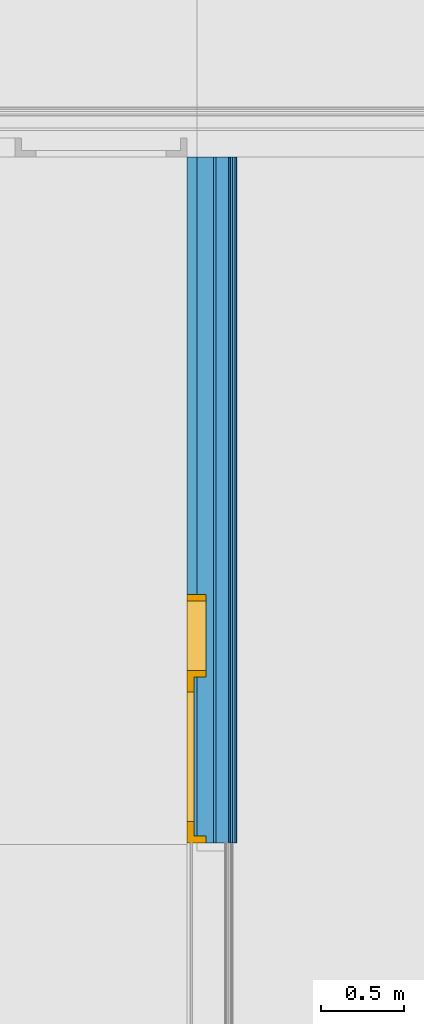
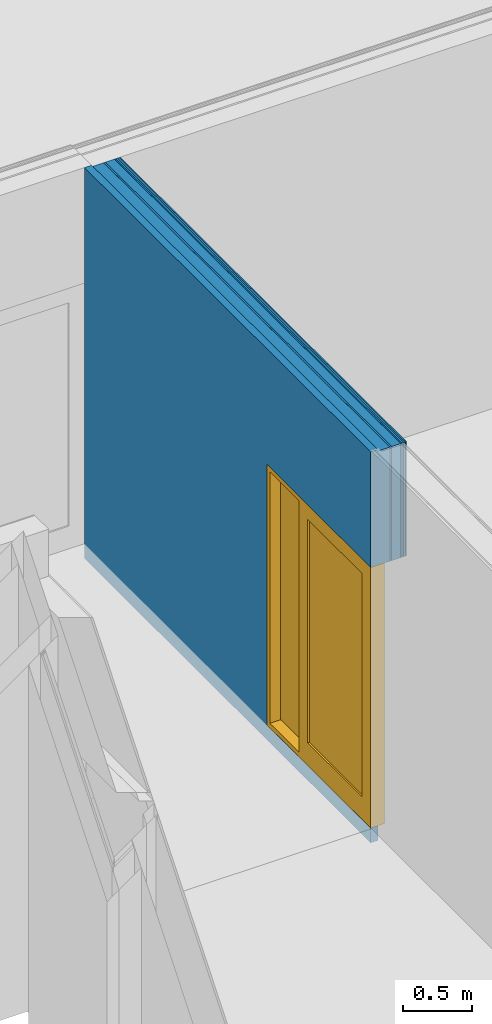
# One storey, part 66 of 139: 7 building element parts, 1 door, 1 opening, 1 element without a shape of its own.
"""IFC2X3 building model written with IfcOpenShell, lengths in millimetres."""

from ifc_helpers import new_model, entity, si_unit, converted_unit, derived_unit, money_unit, direction, frame, origin_with_axes, place, context, subcontext, project, spatial, open_shell, faceted_brep, surface_model, source, transform, mapped, material, type_object, element, fill, aggregate, save


model = new_model("IFC2X3")

# Units and contexts
model_context = context("Model", 3, precision=0.01, world=origin_with_axes(), true_north=direction((0.0, 1.0)))
body_context = subcontext(model_context, "Body", "Model", "MODEL_VIEW")
ifc_project = project(units=[si_unit("LENGTHUNIT", "METRE", prefix="MILLI"), si_unit("AREAUNIT", "SQUARE_METRE"), si_unit("VOLUMEUNIT", "CUBIC_METRE"), converted_unit("PLANEANGLEUNIT", "DEGREE", entity("IfcPlaneAngleMeasure", 0.0174532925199), si_unit("PLANEANGLEUNIT", "RADIAN"), dimensions=[0, 0, 0, 0, 0, 0, 0]), money_unit("EUR"), converted_unit("TIMEUNIT", "Year", entity("IfcTimeMeasure", 31556926.0), si_unit("TIMEUNIT", "SECOND"), dimensions=[0, 0, 1, 0, 0, 0, 0]), si_unit("MASSUNIT", "GRAM", prefix="KILO"), si_unit("THERMODYNAMICTEMPERATUREUNIT", "DEGREE_CELSIUS"), si_unit("LUMINOUSINTENSITYUNIT", "LUMEN"), si_unit("ENERGYUNIT", "JOULE", prefix="MEGA"), derived_unit("THERMALCONDUCTANCEUNIT", [(si_unit("POWERUNIT", "WATT"), 1), (si_unit("LENGTHUNIT", "METRE"), -1), (si_unit("THERMODYNAMICTEMPERATUREUNIT", "KELVIN"), -1)]), derived_unit("SPECIFICHEATCAPACITYUNIT", [(si_unit("ENERGYUNIT", "JOULE"), 1), (si_unit("MASSUNIT", "GRAM", prefix="KILO"), -1), (si_unit("THERMODYNAMICTEMPERATUREUNIT", "KELVIN"), -1)]), derived_unit("MASSDENSITYUNIT", [(si_unit("MASSUNIT", "GRAM", prefix="KILO"), 1), (si_unit("VOLUMEUNIT", "CUBIC_METRE"), -1)])], contexts=[model_context])

# Site, building, storey
site_placement = place(None, origin_with_axes())
site = spatial("IfcSite", under=ifc_project, at=site_placement, Name="Kolde pst 67a", CompositionType="ELEMENT")
building_placement = place(site_placement, origin_with_axes())
building = spatial("IfcBuilding", under=site, at=building_placement, Name="Riigigümnaasium", CompositionType="ELEMENT")
storey_placement = place(building_placement, frame((0.0, 0.0, 4600.0), z_axis=(0.0, 0.0, 1.0), x_axis=(1.0, 0.0, 0.0)))
storey = spatial("IfcBuildingStorey", under=building, at=storey_placement, Name="2. korrus", CompositionType="ELEMENT", Elevation=4600.0)

# Door
door_style = type_object("IfcDoorStyle", Name="Door with Sidelight on Side 2 25", ConstructionType="NOTDEFINED", OperationType="SINGLE_SWING_LEFT", ParameterTakesPrecedence=False, Sizeable=False)
shared_shape = source(origin_with_axes(), body_context, "Body", "SurfaceModel", [
    faceted_brep([(750.0, 0.0, 0.0), (750.0, -115.0, 0.0), (710.0, -115.0, 0.0), (710.0, 0.0, 0.0), (750.0, 0.0, 2260.0), (750.0, -115.0, 2260.0), (710.0, -115.0, 2260.0), (710.0, -115.0, 40.0), (710.0, 0.0, 40.0), (710.0, 0.0, 2260.0)], [[[0, 1, 2, 3]], [[4, 5, 1, 0]], [[1, 5, 6, 7, 2]], [[3, 2, 7, 8]], [[0, 3, 8, 9, 4]], [[9, 6, 5, 4]], [[8, 7, 6, 9]]]),
    faceted_brep([(250.0, -40.0, 0.0), (250.0, -115.0, 0.0), (250.0, -115.0, 2260.0), (250.0, -40.0, 2260.0), (262.0, -40.0, 0.0), (262.0, 0.0, 0.0), (290.0, 0.0, 0.0), (290.0, -115.0, 0.0), (290.0, -115.0, 40.0), (290.0, -115.0, 2260.0), (262.0, -40.0, 2260.0), (290.0, 0.0, 2260.0), (262.0, 0.0, 2260.0), (290.0, 0.0, 40.0)], [[[0, 1, 2, 3]], [[4, 5, 6, 7, 1, 0]], [[7, 8, 9, 2, 1]], [[10, 3, 2, 9, 11, 12]], [[10, 4, 0, 3]], [[12, 5, 4, 10]], [[12, 11, 13, 6, 5]], [[6, 13, 8, 7]], [[13, 11, 9, 8]]]),
    faceted_brep([(710.0, 0.0, 40.0), (710.0, -115.0, 40.0), (710.0, -115.0, 0.0), (710.0, 0.0, 0.0), (290.0, 0.0, 40.0), (290.0, -115.0, 40.0), (290.0, -115.0, 0.0), (290.0, 0.0, 0.0)], [[[0, 1, 2, 3]], [[4, 5, 1, 0]], [[1, 5, 6, 2]], [[3, 2, 6, 7]], [[0, 3, 7, 4]], [[7, 6, 5, 4]]]),
    faceted_brep([(-722.0, -40.0, 2260.0), (-722.0, 0.0, 2260.0), (-750.0, 0.0, 2260.0), (-750.0, -115.0, 2260.0), (-710.0, -115.0, 2260.0), (-710.0, -40.0, 2260.0), (-722.0, -40.0, 0.0), (-722.0, 0.0, 0.0), (-750.0, 0.0, 0.0), (-750.0, -115.0, 0.0), (-710.0, -115.0, 0.0), (-710.0, -40.0, 0.0)], [[[0, 1, 2, 3, 4, 5]], [[0, 6, 7, 1]], [[7, 8, 2, 1]], [[2, 8, 9, 3]], [[3, 9, 10, 4]], [[5, 4, 10, 11]], [[5, 11, 6, 0]], [[6, 11, 10, 9, 8, 7]]]),
    faceted_brep([(262.0, 0.0, 2272.0), (-722.0, 0.0, 2272.0), (-722.0, 0.0, 2260.0), (-750.0, 0.0, 2260.0), (-750.0, 0.0, 2300.0), (750.0, 0.0, 2300.0), (750.0, 0.0, 2260.0), (710.0, 0.0, 2260.0), (290.0, 0.0, 2260.0), (262.0, 0.0, 2260.0), (262.0, -40.0, 2272.0), (-722.0, -40.0, 2272.0), (-722.0, -40.0, 2260.0), (-710.0, -40.0, 2260.0), (-710.0, -115.0, 2260.0), (-750.0, -115.0, 2260.0), (-750.0, -115.0, 2300.0), (750.0, -115.0, 2300.0), (750.0, -115.0, 2260.0), (710.0, -115.0, 2260.0), (290.0, -115.0, 2260.0), (262.0, -40.0, 2260.0), (250.0, -115.0, 2260.0)], [[[0, 1, 2, 3, 4, 5, 6, 7, 8, 9]], [[0, 10, 11, 1]], [[1, 11, 12, 2]], [[12, 13, 14, 15, 3, 2]], [[4, 3, 15, 16]], [[5, 4, 16, 17]], [[6, 5, 17, 18]], [[7, 6, 18, 19]], [[8, 7, 19, 20]], [[21, 9, 8, 20, 22, 14, 13]], [[9, 21, 10, 0]], [[12, 11, 10, 21, 13]], [[14, 22, 20, 19, 18, 17, 16, 15]]]),
    faceted_brep([(-722.0, 0.0, 200.0), (-622.0, 0.0, 200.0), (-622.0, -40.0, 200.0), (-722.0, -40.0, 200.0), (-722.0, 0.0, 2172.0), (-622.0, 0.0, 2172.0), (-622.0, -40.0, 2172.0), (-722.0, -40.0, 2172.0)], [[[0, 1, 2, 3]], [[0, 4, 5, 1]], [[1, 5, 6, 2]], [[3, 2, 6, 7]], [[4, 0, 3, 7]], [[5, 4, 7, 6]]]),
    faceted_brep([(262.0, 0.0, 200.0), (262.0, 0.0, 2172.0), (262.0, -40.0, 2172.0), (262.0, -40.0, 200.0), (162.0, 0.0, 200.0), (162.0, 0.0, 2172.0), (162.0, -40.0, 2172.0), (162.0, -40.0, 200.0)], [[[0, 1, 2, 3]], [[0, 4, 5, 1]], [[1, 5, 6, 2]], [[3, 2, 6, 7]], [[4, 0, 3, 7]], [[5, 4, 7, 6]]]),
    faceted_brep([(-722.0, 0.0, 0.0), (262.0, 0.0, 0.0), (262.0, -40.0, 0.0), (-722.0, -40.0, 0.0), (-722.0, 0.0, 200.0), (-622.0, 0.0, 200.0), (162.0, 0.0, 200.0), (262.0, 0.0, 200.0), (262.0, -40.0, 200.0), (162.0, -40.0, 200.0), (-622.0, -40.0, 200.0), (-722.0, -40.0, 200.0)], [[[0, 1, 2, 3]], [[0, 4, 5, 6, 7, 1]], [[1, 7, 8, 2]], [[3, 2, 8, 9, 10, 11]], [[4, 0, 3, 11]], [[5, 4, 11, 10]], [[6, 5, 10, 9]], [[7, 6, 9, 8]]]),
    faceted_brep([(-722.0, 0.0, 2272.0), (-722.0, 0.0, 2172.0), (-722.0, -40.0, 2172.0), (-722.0, -40.0, 2272.0), (262.0, 0.0, 2272.0), (262.0, 0.0, 2172.0), (162.0, 0.0, 2172.0), (-622.0, 0.0, 2172.0), (-622.0, -40.0, 2172.0), (162.0, -40.0, 2172.0), (262.0, -40.0, 2172.0), (262.0, -40.0, 2272.0)], [[[0, 1, 2, 3]], [[0, 4, 5, 6, 7, 1]], [[1, 7, 8, 2]], [[3, 2, 8, 9, 10, 11]], [[4, 0, 3, 11]], [[5, 4, 11, 10]], [[6, 5, 10, 9]], [[7, 6, 9, 8]]]),
    surface_model("IfcShellBasedSurfaceModel", [(-622.0, -14.0, 200.0), (-622.0, -14.0, 2172.0), (162.0, -14.0, 2172.0), (162.0, -14.0, 200.0)], [open_shell([[[0, 1, 2, 3]]])]),
    surface_model("IfcShellBasedSurfaceModel", [(-622.0, -26.0, 200.0), (162.0, -26.0, 200.0), (162.0, -26.0, 2172.0), (-622.0, -26.0, 2172.0)], [open_shell([[[0, 1, 2, 3]]])]),
    surface_model("IfcShellBasedSurfaceModel", [(710.0, -91.0, 40.0), (290.0, -91.0, 40.0), (290.0, -91.0, 2260.0), (710.0, -91.0, 2260.0)], [open_shell([[[0, 1, 2, 3]]])]),
    surface_model("IfcShellBasedSurfaceModel", [(710.0, -103.0, 40.0), (710.0, -103.0, 2260.0), (290.0, -103.0, 2260.0), (290.0, -103.0, 40.0)], [open_shell([[[0, 1, 2, 3]]])]),
])
wall_placement = place(storey_placement, frame((76590.001789, 28589.9996998, -130.0), z_axis=(0.0, 0.0, 1.0), x_axis=(-1.71295679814e-06, -0.999999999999, 0.0)))
opening_placement = place(wall_placement, frame((3389.99972932, 0.0, 130.0), z_axis=(0.0, 0.0, 1.0), x_axis=(1.0, 0.0, 0.0)))
door_placement = place(opening_placement, frame((750.0, 0.0, 0.0), z_axis=(0.0, 0.0, 1.0), x_axis=(-1.0, 0.0, 0.0)))
door = element("IfcDoor", 1, at=door_placement, inside=storey, type_object=door_style, Name="Siseuks", ObjectType="DOOR", OverallHeight=2300.0, OverallWidth=1500.0, context=body_context, shape_type="MappedRepresentation", body=[
    mapped(shared_shape, transform((750.0, 0.0, 0.0))),
])

# Wall, opening
wall_type = type_object("IfcWallType", Name="SS-CLT-16/1_vill75+krohv 52 dB 300", PredefinedType="NOTDEFINED")
wall = element("IfcWall", 2, at=wall_placement, inside=storey, type_object=wall_type, Name="Sisesein")
opening = element("IfcOpeningElement", 3, at=opening_placement, cuts=wall, Name="Siseuks", context=body_context, shape_type="Brep", body=[
    faceted_brep([(750.0, -600.0, 2300.0), (750.0, -600.0, 0.0), (750.0, 300.0, 0.0), (750.0, 300.0, 2300.0), (-750.0, -600.0, 2300.0), (-750.0, -600.0, 0.0), (-750.0, 300.0, 0.0), (-750.0, 300.0, 2300.0)], [[[0, 1, 2, 3]], [[0, 4, 5, 1]], [[1, 5, 6, 2]], [[3, 2, 6, 7]], [[4, 0, 3, 7]], [[5, 4, 7, 6]]]),
])

fill(opening, door)

# Building element part
ifc_material_1 = material(Name="_VIIMISTLUSKIHT - viimistlus vastavalt SA osale")
building_element_part_1_placement = place(wall_placement, origin_with_axes())
building_element_part_1 = element("IfcBuildingElementPart", 4, at=building_element_part_1_placement, material=ifc_material_1, Name="_VIIMISTLUSKIHT - viimistlus vastavalt SA osale", context=body_context, shape_type="Brep", body=[
    faceted_brep([(2639.99972932, 300.0, 2430.0), (2639.99972932, 300.0, 130.0), (-0.000513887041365, 300.0, 130.0), (-0.000513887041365, 300.0, 3436.9), (4140.0003942, 300.0, 3436.9), (4139.99972932, 300.0, 2430.0), (2639.99972932, 290.0, 2430.0), (2639.99972932, 290.0, 130.0), (-0.00049675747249, 290.0, 130.0), (-0.00049675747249, 290.0, 3436.9), (4140.0003942, 290.0, 3436.9), (4139.99972932, 290.0, 2430.0)], [[[0, 1, 2, 3, 4, 5]], [[1, 0, 6, 7]], [[1, 7, 8, 2]], [[3, 2, 8, 9]], [[3, 9, 10, 4]], [[11, 5, 4, 10]], [[0, 5, 11, 6]], [[6, 11, 10, 9, 8, 7]]]),
])

ifc_material_2 = material(Name="_PLAATMATERJAL - tuletõkkekipsplaat, Knauf Red GKF või samaväärne")
building_element_part_2_placement = place(wall_placement, origin_with_axes())
building_element_part_2 = element("IfcBuildingElementPart", 5, at=building_element_part_2_placement, material=ifc_material_2, Name="_PLAATMATERJAL - tuletõkkekipsplaat, Knauf Red GKF või samaväärne", context=body_context, shape_type="Brep", body=[
    faceted_brep([(2639.99972932, 290.0, 2430.0), (2639.99972932, 290.0, 130.0), (2639.99972932, 290.0, 127.0), (-0.00049675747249, 290.0, 127.0), (-0.00049675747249, 290.0, 3436.9), (4140.00038761, 290.0, 3436.9), (4139.99972932, 290.0, 2430.0), (2639.99972932, 275.0, 2430.0), (2639.99972932, 275.0, 130.0), (2639.99972932, 275.0, 127.0), (-0.000471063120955, 275.0, 127.0), (-0.000471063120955, 275.0, 3436.9), (4140.00038761, 275.0, 3436.9), (4139.99972932, 275.0, 2430.0)], [[[0, 1, 2, 3, 4, 5, 6]], [[1, 0, 7, 8]], [[1, 8, 9, 2]], [[9, 10, 3, 2]], [[4, 3, 10, 11]], [[4, 11, 12, 5]], [[13, 6, 5, 12]], [[0, 6, 13, 7]], [[7, 13, 12, 11, 10, 9, 8]]]),
])

building_element_part_3_placement = place(wall_placement, origin_with_axes())
building_element_part_3 = element("IfcBuildingElementPart", 6, at=building_element_part_3_placement, material=ifc_material_2, Name="_PLAATMATERJAL - tuletõkkekipsplaat, Knauf Red GKF või samaväärne", context=body_context, shape_type="Brep", body=[
    faceted_brep([(2639.99972932, 275.0, 2430.0), (2639.99972932, 275.0, 130.0), (2639.99972932, 275.0, 127.0), (-0.000471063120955, 275.0, 127.0), (-0.000471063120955, 275.0, 3436.9), (4140.00038761, 275.0, 3436.9), (4139.99972932, 275.0, 2430.0), (2639.99972932, 260.0, 2430.0), (2639.99972932, 260.0, 130.0), (2639.99972932, 260.0, 127.0), (-0.000445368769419, 260.0, 127.0), (-0.000445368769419, 260.0, 3436.9), (4140.00038761, 260.0, 3436.9), (4139.99972932, 260.0, 2430.0)], [[[0, 1, 2, 3, 4, 5, 6]], [[1, 0, 7, 8]], [[1, 8, 9, 2]], [[9, 10, 3, 2]], [[4, 3, 10, 11]], [[4, 11, 12, 5]], [[13, 6, 5, 12]], [[0, 6, 13, 7]], [[7, 13, 12, 11, 10, 9, 8]]]),
])

ifc_material_3 = material(Name="_PLAATMATERJAL - OSB3 plaat")
building_element_part_4_placement = place(wall_placement, origin_with_axes())
building_element_part_4 = element("IfcBuildingElementPart", 7, at=building_element_part_4_placement, material=ifc_material_3, Name="_PLAATMATERJAL - OSB3 plaat", context=body_context, shape_type="Brep", body=[
    faceted_brep([(2639.99972932, 260.0, 2430.0), (2639.99972932, 260.0, 130.0), (2639.99972932, 260.0, 127.0), (-0.000445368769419, 260.0, 127.0), (-0.000445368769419, 260.0, 3436.9), (4140.00038761, 260.0, 3436.9), (4139.99972932, 260.0, 2430.0), (2639.99972932, 250.0, 2430.0), (2639.99972932, 250.0, 130.0), (2639.99972932, 250.0, 127.0), (-0.000428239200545, 250.0, 127.0), (-0.000428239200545, 250.0, 3436.9), (4140.00038761, 250.0, 3436.9), (4139.99972932, 250.0, 2430.0)], [[[0, 1, 2, 3, 4, 5, 6]], [[1, 0, 7, 8]], [[1, 8, 9, 2]], [[9, 10, 3, 2]], [[4, 3, 10, 11]], [[4, 11, 12, 5]], [[13, 6, 5, 12]], [[0, 6, 13, 7]], [[7, 13, 12, 11, 10, 9, 8]]]),
])

ifc_material_4 = material(Name="_KARKASS - metallkarkass CW 75/50/06 ja UW 75/40/06, samm 600, vahel mineraalvill, helineeldetegur αw = 1.0,  ISOVER ACOUSTIC 75mm või samaväärne")
building_element_part_5_placement = place(wall_placement, origin_with_axes())
building_element_part_5 = element("IfcBuildingElementPart", 8, at=building_element_part_5_placement, material=ifc_material_4, Name="_KARKASS - metallkarkass CW 75/50/06 ja UW 75/40/06, samm 600, vahel mineraalvill, helineeldetegur αw = 1.0,  ISOVER ACOUSTIC 75mm või samaväärne", context=body_context, shape_type="Brep", body=[
    faceted_brep([(2639.99972932, 250.0, 2430.0), (2639.99972932, 250.0, 130.0), (2639.99972932, 250.0, 127.0), (-0.000428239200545, 250.0, 127.0), (-0.000428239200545, 250.0, 3436.9), (4140.00038761, 250.0, 3436.9), (4139.99972932, 250.0, 2430.0), (2639.99972932, 175.0, 2430.0), (2639.99972932, 175.0, 130.0), (2639.99972932, 175.0, 127.0), (-0.000299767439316, 175.0, 127.0), (-0.000299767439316, 175.0, 3436.9), (4140.00038761, 175.0, 3436.9), (4139.99972932, 175.0, 2430.0)], [[[0, 1, 2, 3, 4, 5, 6]], [[1, 0, 7, 8]], [[1, 8, 9, 2]], [[9, 10, 3, 2]], [[4, 3, 10, 11]], [[4, 11, 12, 5]], [[13, 6, 5, 12]], [[0, 6, 13, 7]], [[7, 13, 12, 11, 10, 9, 8]]]),
])

ifc_material_5 = material(Name="_ÕHKVAHE")
building_element_part_6_placement = place(wall_placement, origin_with_axes())
building_element_part_6 = element("IfcBuildingElementPart", 9, at=building_element_part_6_placement, material=ifc_material_5, Name="_ÕHKVAHE", context=body_context, shape_type="Brep", body=[
    faceted_brep([(2639.99972932, 175.0, 2430.0), (2639.99972932, 175.0, 130.0), (2639.99972932, 175.0, 127.0), (-0.000299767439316, 175.0, 127.0), (-0.000299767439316, 175.0, 3436.9), (4140.00038761, 175.0, 3436.9), (4139.99972932, 175.0, 2430.0), (2639.99972932, 160.0, 2430.0), (2639.99972932, 160.0, 130.0), (2639.99972932, 160.0, 127.0), (-0.00027407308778, 160.0, 127.0), (-0.00027407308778, 160.0, 3436.9), (4140.00038761, 160.0, 3436.9), (4139.99972932, 160.0, 2430.0)], [[[0, 1, 2, 3, 4, 5, 6]], [[1, 0, 7, 8]], [[1, 8, 9, 2]], [[9, 10, 3, 2]], [[4, 3, 10, 11]], [[4, 11, 12, 5]], [[13, 6, 5, 12]], [[0, 6, 13, 7]], [[7, 13, 12, 11, 10, 9, 8]]]),
])

ifc_material_6 = material(Name="_KANDETARIND - CLT ristkihtliimpuit vastavalt EK osale, CLT paigaldusvuugid teibitakse ROTHOBLAAS teibiga")
building_element_part_7_placement = place(wall_placement, origin_with_axes())
building_element_part_7 = element("IfcBuildingElementPart", 10, at=building_element_part_7_placement, material=ifc_material_6, Name="_KANDETARIND - CLT ristkihtliimpuit vastavalt EK osale, CLT paigaldusvuugid teibitakse ROTHOBLAAS teibiga", context=body_context, shape_type="Brep", body=[
    faceted_brep([(2639.99972932, 160.0, 2430.0), (2639.99972932, 160.0, 130.0), (2639.99972932, 160.0, 6.9), (-0.00027407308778, 160.0, 6.9), (-0.00027407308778, 160.0, 3436.9), (4140.0003942, 160.0, 3436.9), (4139.99972932, 160.0, 2430.0), (2639.99972932, 0.0, 2430.0), (2639.99972932, 0.0, 130.0), (2639.99972932, 60.0047962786, 130.0), (2639.99972932, 60.0047962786, 6.9), (-0.000102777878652, 60.0002740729, 6.9), (-0.000102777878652, 60.0002740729, 0.0), (0.0, 0.0, 0.0), (0.0, 0.0, 3450.0), (-0.000102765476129, 59.993034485, 3450.0), (-0.000102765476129, 59.993034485, 3436.9), (4140.0003942, 60.000126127, 3436.9), (4139.99972932, 0.0, 2430.0), (4140.0003942, 60.000126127, 3450.0), (4140.0003942, 0.0, 3450.0), (4140.0003942, 0.0, 0.0), (4139.99972932, 0.0, 130.0), (4139.99972932, 60.0073657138, 130.0), (4140.0003942, 60.0073657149, 0.0)], [[[0, 1, 2, 3, 4, 5, 6]], [[1, 0, 7, 8, 9]], [[1, 9, 10, 2]], [[11, 3, 2, 10]], [[3, 11, 12, 13, 14, 15, 16, 4]], [[17, 5, 4, 16]], [[18, 6, 5, 17, 19, 20]], [[0, 6, 18, 7]], [[7, 18, 20, 14, 13, 21, 22, 8]], [[23, 9, 8, 22]], [[9, 23, 24, 12, 11, 10]], [[13, 12, 24, 21]], [[19, 15, 14, 20]], [[17, 16, 15, 19]], [[23, 22, 21, 24]]]),
])

aggregate(wall, [building_element_part_1, building_element_part_2, building_element_part_3, building_element_part_4, building_element_part_5, building_element_part_6, building_element_part_7])

save(model, "model.ifc")
